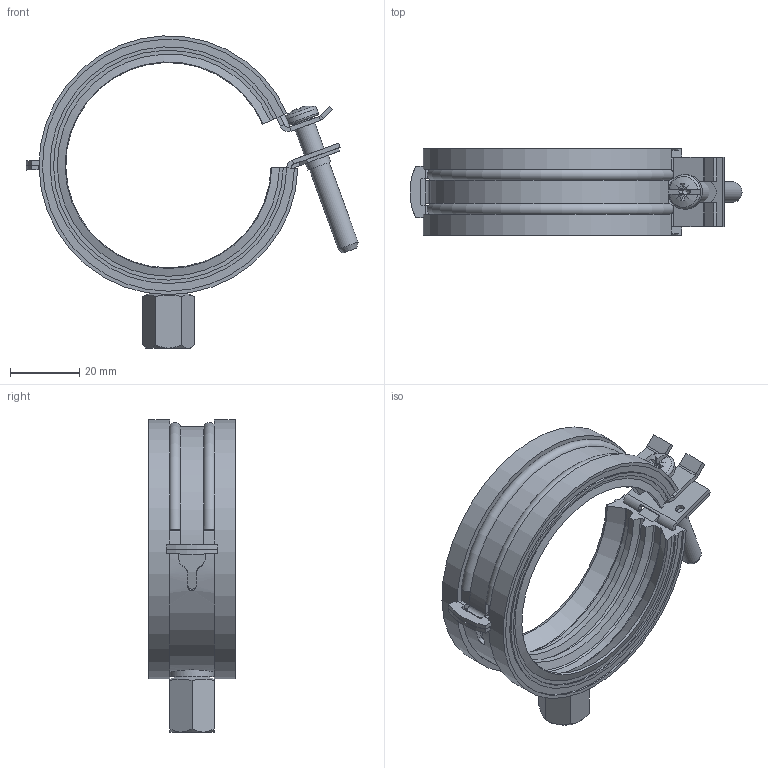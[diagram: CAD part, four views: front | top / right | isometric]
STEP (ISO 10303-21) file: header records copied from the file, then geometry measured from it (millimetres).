
FILE_DESCRIPTION(/* description */ (''),/* implementation_level */ '2;1');
FILE_NAME(/* name */ 'Schelle_Gr. 5_301661.stp',/* time_stamp */ '2024-11-06T15:13:19+01:00',/* author */ ('ASc'),/* organization */ ('Walraven'),/* preprocessor_version */ 'ST-DEVELOPER v19.2',/* originating_system */ 'Autodesk Inventor 2023',/* authorisation */ '');
FILE_SCHEMA (('AUTOMOTIVE_DESIGN { 1 0 10303 214 3 1 1 }'));
Length unit declared in the file: millimetre
Products named in the file (1): Schelle_Gr. 5_301661
Bounding box: 95.93 x 25.23 x 90.21 mm (x, y, z)
Volume: 28287.7 mm3; surface area: 32860.3 mm2
Topology: 6 solids, 6 shells, 270 faces, 705 edges, 446 vertices
Faces by surface type: plane 152, cylinder 60, cone 30, bspline 19, torus 6, sphere 3
Full cylindrical faces by diameter (mm): 2.5 x2, 5 x1, 6 x1, 6.8 x1, 7 x1, 8.5 x1, 10 x1, 10.5 x1, 13 x1
Entity records: 9204 total; most frequent: CARTESIAN_POINT 2256, ORIENTED_EDGE 1408, DIRECTION 1370, EDGE_CURVE 704, AXIS2_PLACEMENT_3D 484, VERTEX_POINT 446, LINE 402, VECTOR 402
